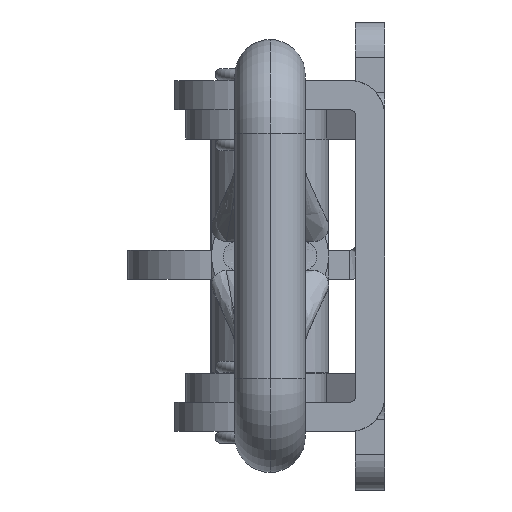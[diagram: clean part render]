
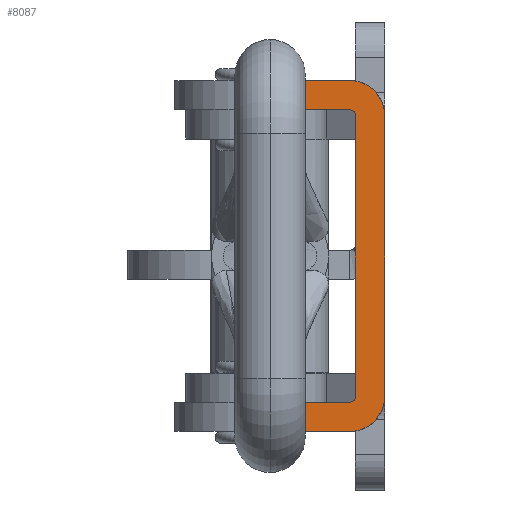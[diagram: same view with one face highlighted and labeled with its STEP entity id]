
A CAD part, left-side view. The second image highlights one B-rep face of the part: STEP entity #8087.
In plain terms, the highlighted planar face has unit normal (-1, 0, 0).
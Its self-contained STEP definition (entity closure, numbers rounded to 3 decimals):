
#14 = EDGE_CURVE ( 'NONE', #18, #21, #1885, .T. ) ;
#18 = VERTEX_POINT ( 'NONE', #1886 ) ;
#21 = VERTEX_POINT ( 'NONE', #1881 ) ;
#569 = VERTEX_POINT ( 'NONE', #3156 ) ;
#575 = VERTEX_POINT ( 'NONE', #3174 ) ;
#580 = VERTEX_POINT ( 'NONE', #3221 ) ;
#582 = VERTEX_POINT ( 'NONE', #3270 ) ;
#583 = EDGE_CURVE ( 'NONE', #580, #582, #3266, .T. ) ;
#591 = ORIENTED_EDGE ( 'NONE', *, *, #8164, .F. ) ;
#1881 = CARTESIAN_POINT ( 'NONE',  ( 0., 2.5, 12. ) ) ;
#1882 = DIRECTION ( 'NONE',  ( 0., 0., 1. ) ) ;
#1883 = VECTOR ( 'NONE', #1882, 1000. ) ;
#1884 = CARTESIAN_POINT ( 'NONE',  ( 0., 2.5, 14. ) ) ;
#1885 = LINE ( 'NONE', #1884, #1883 ) ;
#1886 = CARTESIAN_POINT ( 'NONE',  ( 0., 2.5, -12. ) ) ;
#3156 = CARTESIAN_POINT ( 'NONE',  ( 0., 0., -12. ) ) ;
#3174 = CARTESIAN_POINT ( 'NONE',  ( 0., 3., -15. ) ) ;
#3221 = CARTESIAN_POINT ( 'NONE',  ( 0., 11., 12.5 ) ) ;
#3263 = DIRECTION ( 'NONE',  ( 0., 0., 1. ) ) ;
#3264 = VECTOR ( 'NONE', #3263, 1000. ) ;
#3265 = CARTESIAN_POINT ( 'NONE',  ( 0., 11., 15. ) ) ;
#3266 = LINE ( 'NONE', #3265, #3264 ) ;
#3270 = CARTESIAN_POINT ( 'NONE',  ( 0., 11., 15. ) ) ;
#6361 = DIRECTION ( 'NONE',  ( 0., 0., -1. ) ) ;
#6362 = AXIS2_PLACEMENT_3D ( 'NONE', #6373, #6382, #6361 ) ;
#6364 = CIRCLE ( 'NONE', #6362, 3. ) ;
#6373 = CARTESIAN_POINT ( 'NONE',  ( 0., 3., 12. ) ) ;
#6382 = DIRECTION ( 'NONE',  ( 1., 0., 0. ) ) ;
#6416 = CARTESIAN_POINT ( 'NONE',  ( 0., 0., 12. ) ) ;
#6428 = CARTESIAN_POINT ( 'NONE',  ( 0., 3., -12. ) ) ;
#6429 = DIRECTION ( 'NONE',  ( 0., 0., 1. ) ) ;
#6430 = VECTOR ( 'NONE', #6429, 1000. ) ;
#6431 = CARTESIAN_POINT ( 'NONE',  ( 0., 0., 15. ) ) ;
#6432 = LINE ( 'NONE', #6431, #6430 ) ;
#6435 = CIRCLE ( 'NONE', #6442, 3. ) ;
#6442 = AXIS2_PLACEMENT_3D ( 'NONE', #6428, #6469, #6465 ) ;
#6447 = CARTESIAN_POINT ( 'NONE',  ( 0., 3., -12.5 ) ) ;
#6448 = DIRECTION ( 'NONE',  ( 0., 0., 1. ) ) ;
#6449 = DIRECTION ( 'NONE',  ( 1., 0., 0. ) ) ;
#6450 = CARTESIAN_POINT ( 'NONE',  ( 0., 3., -12. ) ) ;
#6453 = DIRECTION ( 'NONE',  ( -1., 0., 0. ) ) ;
#6458 = CIRCLE ( 'NONE', #6476, 0.5 ) ;
#6459 = CARTESIAN_POINT ( 'NONE',  ( 0., 9., -15. ) ) ;
#6465 = DIRECTION ( 'NONE',  ( 0., 0., -1. ) ) ;
#6469 = DIRECTION ( 'NONE',  ( 1., 0., 0. ) ) ;
#6471 = CARTESIAN_POINT ( 'NONE',  ( 0., 11., -15. ) ) ;
#6476 = AXIS2_PLACEMENT_3D ( 'NONE', #6450, #6449, #6448 ) ;
#6486 = CARTESIAN_POINT ( 'NONE',  ( 0., 3., 12.5 ) ) ;
#6487 = DIRECTION ( 'NONE',  ( 0., 0., -1. ) ) ;
#6488 = DIRECTION ( 'NONE',  ( 1., 0., 0. ) ) ;
#6489 = AXIS2_PLACEMENT_3D ( 'NONE', #6502, #6488, #6487 ) ;
#6494 = DIRECTION ( 'NONE',  ( 0., 1., 0. ) ) ;
#6496 = CARTESIAN_POINT ( 'NONE',  ( 0., 11., -12.5 ) ) ;
#6497 = CIRCLE ( 'NONE', #6489, 0.5 ) ;
#6498 = AXIS2_PLACEMENT_3D ( 'NONE', #6459, #6453, #6494 ) ;
#6501 = PLANE ( 'NONE',  #6498 ) ;
#6502 = CARTESIAN_POINT ( 'NONE',  ( 0., 3., 12. ) ) ;
#6503 = FACE_OUTER_BOUND ( 'NONE', #8166, .T. ) ;
#6519 = DIRECTION ( 'NONE',  ( 0., -1., 0. ) ) ;
#6520 = VECTOR ( 'NONE', #6519, 1000. ) ;
#6521 = CARTESIAN_POINT ( 'NONE',  ( 0., 0., -12.5 ) ) ;
#6522 = LINE ( 'NONE', #6521, #6562 ) ;
#6523 = DIRECTION ( 'NONE',  ( 0., -1., 0. ) ) ;
#6524 = VECTOR ( 'NONE', #6523, 1000. ) ;
#6525 = CARTESIAN_POINT ( 'NONE',  ( 0., 0., 12.5 ) ) ;
#6526 = LINE ( 'NONE', #6525, #6524 ) ;
#6538 = CARTESIAN_POINT ( 'NONE',  ( 0., 9., 15. ) ) ;
#6539 = LINE ( 'NONE', #6538, #6520 ) ;
#6540 = VECTOR ( 'NONE', #6545, 1000. ) ;
#6541 = LINE ( 'NONE', #6543, #6540 ) ;
#6543 = CARTESIAN_POINT ( 'NONE',  ( 0., 11., -15. ) ) ;
#6545 = DIRECTION ( 'NONE',  ( 0., 0., -1. ) ) ;
#6561 = DIRECTION ( 'NONE',  ( 0., 1., 0. ) ) ;
#6562 = VECTOR ( 'NONE', #6561, 1000. ) ;
#6658 = DIRECTION ( 'NONE',  ( 0., 1., 0. ) ) ;
#6659 = VECTOR ( 'NONE', #6658, 1000. ) ;
#6667 = CARTESIAN_POINT ( 'NONE',  ( 0., 3., 15. ) ) ;
#6668 = LINE ( 'NONE', #6675, #6659 ) ;
#6675 = CARTESIAN_POINT ( 'NONE',  ( 0., 9., -15. ) ) ;
#8042 = EDGE_CURVE ( 'NONE', #8170, #8066, #6364, .T. ) ;
#8045 = ORIENTED_EDGE ( 'NONE', *, *, #8062, .T. ) ;
#8062 = EDGE_CURVE ( 'NONE', #569, #8066, #6432, .T. ) ;
#8066 = VERTEX_POINT ( 'NONE', #6416 ) ;
#8070 = EDGE_CURVE ( 'NONE', #569, #575, #6435, .T. ) ;
#8071 = ORIENTED_EDGE ( 'NONE', *, *, #8070, .F. ) ;
#8073 = ORIENTED_EDGE ( 'NONE', *, *, #8111, .F. ) ;
#8076 = VERTEX_POINT ( 'NONE', #6471 ) ;
#8081 = EDGE_CURVE ( 'NONE', #18, #8085, #6458, .T. ) ;
#8082 = ORIENTED_EDGE ( 'NONE', *, *, #14, .F. ) ;
#8085 = VERTEX_POINT ( 'NONE', #6447 ) ;
#8087 = ADVANCED_FACE ( 'NONE', ( #6503 ), #6501, .T. ) ;
#8088 = VERTEX_POINT ( 'NONE', #6496 ) ;
#8089 = EDGE_CURVE ( 'NONE', #8099, #21, #6497, .T. ) ;
#8091 = ORIENTED_EDGE ( 'NONE', *, *, #8109, .T. ) ;
#8093 = ORIENTED_EDGE ( 'NONE', *, *, #8089, .T. ) ;
#8099 = VERTEX_POINT ( 'NONE', #6486 ) ;
#8100 = ORIENTED_EDGE ( 'NONE', *, *, #583, .F. ) ;
#8102 = ORIENTED_EDGE ( 'NONE', *, *, #8081, .T. ) ;
#8105 = ORIENTED_EDGE ( 'NONE', *, *, #8042, .F. ) ;
#8109 = EDGE_CURVE ( 'NONE', #580, #8099, #6526, .T. ) ;
#8111 = EDGE_CURVE ( 'NONE', #582, #8170, #6539, .T. ) ;
#8113 = ORIENTED_EDGE ( 'NONE', *, *, #8127, .T. ) ;
#8121 = EDGE_CURVE ( 'NONE', #8085, #8088, #6522, .T. ) ;
#8123 = ORIENTED_EDGE ( 'NONE', *, *, #8121, .T. ) ;
#8127 = EDGE_CURVE ( 'NONE', #8088, #8076, #6541, .T. ) ;
#8164 = EDGE_CURVE ( 'NONE', #575, #8076, #6668, .T. ) ;
#8166 = EDGE_LOOP ( 'NONE', ( #591, #8071, #8045, #8105, #8073, #8100, #8091, #8093, #8082, #8102, #8123, #8113 ) ) ;
#8170 = VERTEX_POINT ( 'NONE', #6667 ) ;
